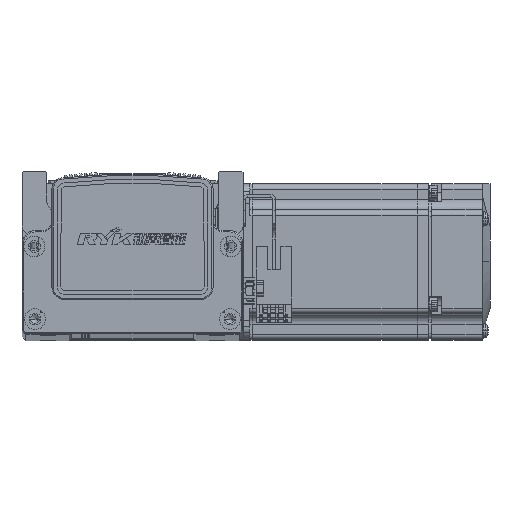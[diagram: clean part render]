
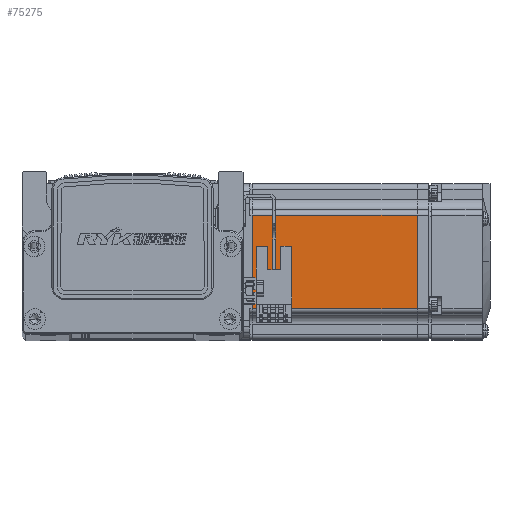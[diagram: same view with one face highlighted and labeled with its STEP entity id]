
A CAD part, top view. The second image highlights one B-rep face of the part: STEP entity #75275.
In plain terms, the highlighted planar face has unit normal (0, 0, 1) as drawn and (0, 0, -1) by its records, which use the part's own axes.
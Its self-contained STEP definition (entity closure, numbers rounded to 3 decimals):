
#400 = VERTEX_POINT ( 'NONE', #1662 ) ;
#403 = VERTEX_POINT ( 'NONE', #1710 ) ;
#446 = VERTEX_POINT ( 'NONE', #1709 ) ;
#476 = VERTEX_POINT ( 'NONE', #1745 ) ;
#1662 = CARTESIAN_POINT ( 'NONE',  ( -70.95, -18., -30. ) ) ;
#1709 = CARTESIAN_POINT ( 'NONE',  ( -70.95, 18., -30. ) ) ;
#1710 = CARTESIAN_POINT ( 'NONE',  ( -7.75, -18., -30. ) ) ;
#1745 = CARTESIAN_POINT ( 'NONE',  ( -7.75, 18., -30. ) ) ;
#21088 = ORIENTED_EDGE ( 'NONE', *, *, #22666, .T. ) ;
#21111 = ORIENTED_EDGE ( 'NONE', *, *, #22822, .T. ) ;
#21143 = ORIENTED_EDGE ( 'NONE', *, *, #22608, .T. ) ;
#21162 = ORIENTED_EDGE ( 'NONE', *, *, #22600, .T. ) ;
#22600 = EDGE_CURVE ( 'NONE', #400, #446, #35874, .T. ) ;
#22608 = EDGE_CURVE ( 'NONE', #446, #476, #35958, .T. ) ;
#22666 = EDGE_CURVE ( 'NONE', #403, #400, #35928, .T. ) ;
#22822 = EDGE_CURVE ( 'NONE', #476, #403, #34407, .T. ) ;
#34407 = LINE ( 'NONE', #46978, #34940 ) ;
#34940 = VECTOR ( 'NONE', #46973, 1000. ) ;
#35874 = LINE ( 'NONE', #49544, #35876 ) ;
#35876 = VECTOR ( 'NONE', #49501, 1000. ) ;
#35928 = LINE ( 'NONE', #49743, #35975 ) ;
#35940 = VECTOR ( 'NONE', #49549, 1000. ) ;
#35958 = LINE ( 'NONE', #49547, #35940 ) ;
#35975 = VECTOR ( 'NONE', #49749, 1000. ) ;
#46973 = DIRECTION ( 'NONE',  ( 0., -1., 0. ) ) ;
#46978 = CARTESIAN_POINT ( 'NONE',  ( -7.75, 25., -30. ) ) ;
#49501 = DIRECTION ( 'NONE',  ( 0., 1., 0. ) ) ;
#49544 = CARTESIAN_POINT ( 'NONE',  ( -70.95, 25., -30. ) ) ;
#49547 = CARTESIAN_POINT ( 'NONE',  ( -6.5, 18., -30. ) ) ;
#49549 = DIRECTION ( 'NONE',  ( 1., 0., 0. ) ) ;
#49743 = CARTESIAN_POINT ( 'NONE',  ( -6.5, -18., -30. ) ) ;
#49749 = DIRECTION ( 'NONE',  ( -1., 0., 0. ) ) ;
#60665 = PLANE ( 'NONE',  #62029 ) ;
#60671 = CARTESIAN_POINT ( 'NONE',  ( -6.5, 25., -30. ) ) ;
#60716 = DIRECTION ( 'NONE',  ( 0., 0., -1. ) ) ;
#60733 = DIRECTION ( 'NONE',  ( -1., 0., 0. ) ) ;
#62029 = AXIS2_PLACEMENT_3D ( 'NONE', #60671, #60716, #60733 ) ;
#62663 = EDGE_LOOP ( 'NONE', ( #21111, #21088, #21162, #21143 ) ) ;
#68226 = FACE_OUTER_BOUND ( 'NONE', #62663, .T. ) ;
#75275 = ADVANCED_FACE ( 'NONE', ( #68226 ), #60665, .T. ) ;
